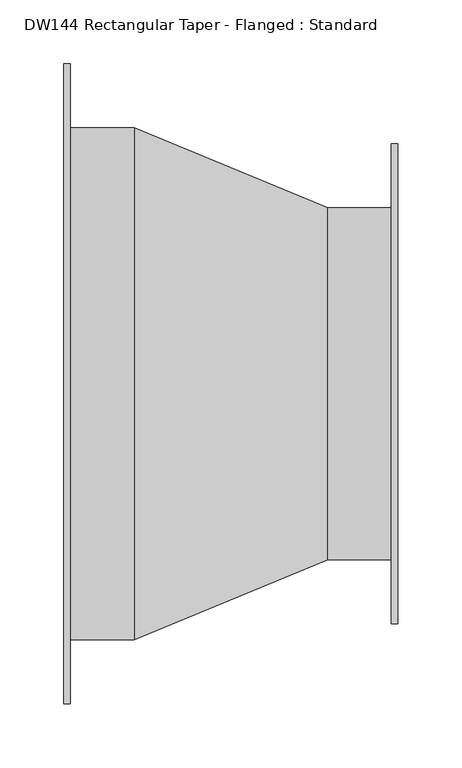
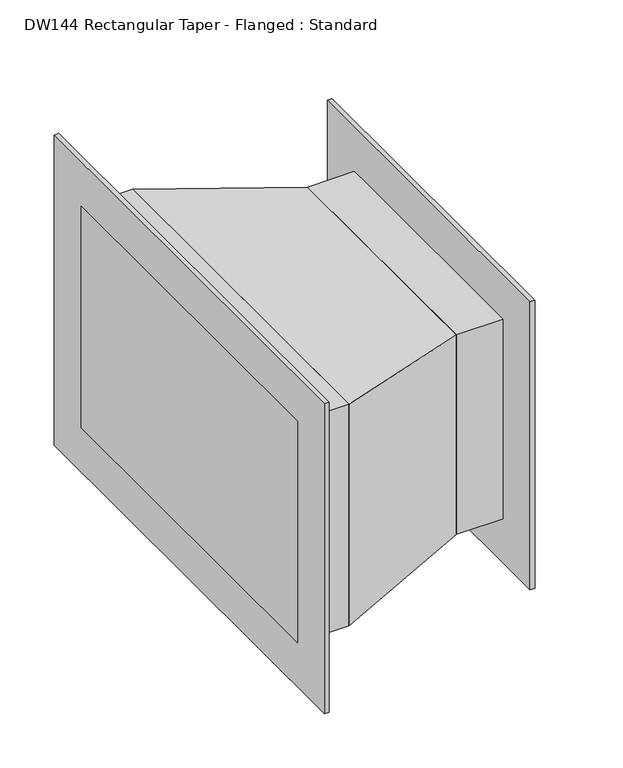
"""IFC4 building model written with IfcOpenShell, lengths in millimetres: duct fitting geometry, DW144 Rectangular Taper - Flanged : Standard."""

from ifc_helpers import new_model, si_unit, frame, origin, place, context, project, spatial, polyline, outline, extrude, faceted_brep, source, transform, mapped, element, save


def dw144_rectangular_taper_flanged_standard_02a91144(model_context):
    return source(origin(), model_context, "Body", "SolidModel", [
        extrude(outline(polyline([(260.8883476, 137.5), (260.8883476, -137.5), (205.8883476, -137.5), (205.8883476, 137.5), (260.8883476, 137.5)])), frame((0.0, 0.0, -112.5), z_axis=(0.0, 0.0, 1.0), x_axis=(1.0, 0.0, 0.0)), (0.0, 0.0, 1.0), 225.0),
        extrude(outline(polyline([(55.0, 200.0), (55.0, -200.0), (0.0, -200.0), (0.0, 200.0), (55.0, 200.0)])), frame((0.0, 0.0, -125.0), z_axis=(0.0, 0.0, 1.0), x_axis=(1.0, 0.0, 0.0)), (0.0, 0.0, 1.0), 250.0),
        faceted_brep([(205.8883476, -137.5, 112.5), (205.8883476, -137.5, -112.5), (205.8883476, 137.5, -112.5), (205.8883476, 137.5, 112.5), (55.0, -200.0, 125.0), (55.0, 200.0, 125.0), (55.0, 200.0, -125.0), (55.0, -200.0, -125.0)], [[[0, 1, 2, 3]], [[4, 5, 6, 7]], [[4, 7, 1, 0]], [[7, 6, 2, 1]], [[6, 5, 3, 2]], [[5, 4, 0, 3]]]),
        extrude(outline(polyline([(260.8883476, 187.5), (260.8883476, -187.5), (255.8883476, -187.5), (255.8883476, 187.5), (260.8883476, 187.5)])), frame((0.0, 0.0, -162.5), z_axis=(0.0, 0.0, 1.0), x_axis=(1.0, 0.0, 0.0)), (0.0, 0.0, 1.0), 325.0),
        extrude(outline(polyline([(5.0, 250.0), (5.0, -250.0), (0.0, -250.0), (0.0, 250.0), (5.0, 250.0)])), frame((0.0, 0.0, -175.0), z_axis=(0.0, 0.0, 1.0), x_axis=(1.0, 0.0, 0.0)), (0.0, 0.0, 1.0), 350.0),
    ])


if __name__ == "__main__":
    model = new_model("IFC4")
    model_context = context("Model", 3, world=origin())
    ifc_project = project(units=[si_unit("LENGTHUNIT", "METRE", prefix="MILLI")], contexts=[model_context])
    site = spatial("IfcSite", under=ifc_project)
    building = spatial("IfcBuilding", under=site)
    placement = place(None, origin())
    dw144_rectangular_taper_flanged_standard_shape = dw144_rectangular_taper_flanged_standard_02a91144(model_context)
    element("IfcDuctFitting", 1, ObjectType="DW144 Rectangular Taper - Flanged : Standard", at=placement, inside=building, context=model_context, shape_type="MappedRepresentation", body=[
        mapped(dw144_rectangular_taper_flanged_standard_shape, transform((0.0, 0.0, 0.0), x_axis=(1.0, 0.0, 0.0), y_axis=(0.0, 1.0, 0.0), z_axis=(0.0, 0.0, 1.0))),
    ])
    save(model, "model.ifc")
